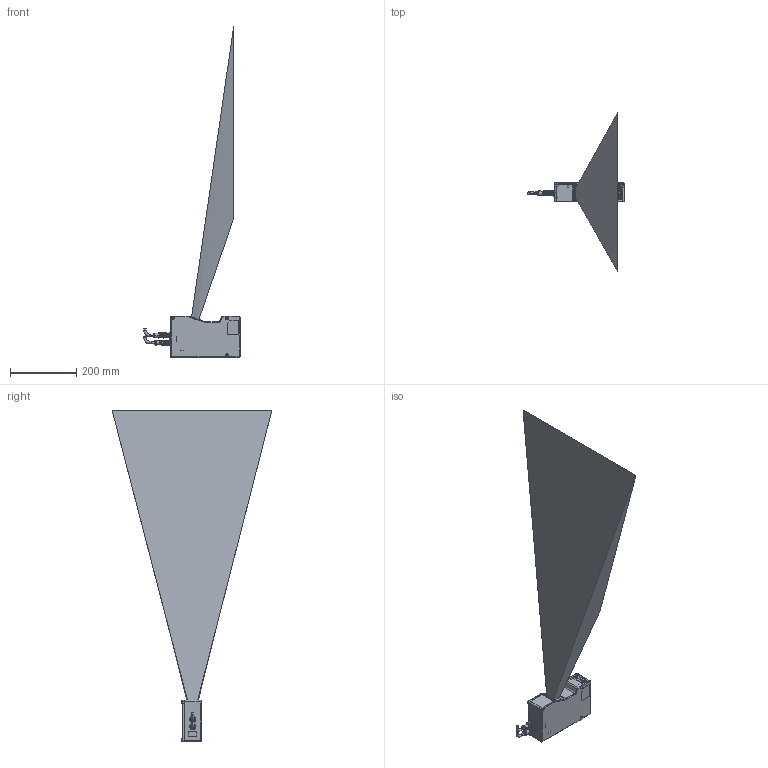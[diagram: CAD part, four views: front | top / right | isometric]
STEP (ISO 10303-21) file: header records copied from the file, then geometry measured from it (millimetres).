
FILE_DESCRIPTION((''),'2;1');
FILE_NAME('PRT0016','2026-05-20T18:56:39',('wangjiayi28'),(''),'CREO PARAMETRIC BY PTC INC, 2020044','CREO PARAMETRIC BY PTC INC, 2020044','');
FILE_SCHEMA(('AUTOMOTIVE_DESIGN { 1 0 10303 214 1 1 1 1 }'));
Products named in the file (1): PRT0016
Bounding box: 291.75 x 482 x 1000.5 mm (x, y, z)
Surface area: 641662.1 mm2
Topology: 2 solids, 45 shells, 1992 faces, 5804 edges, 3781 vertices
Faces by surface type: plane 934, cylinder 588, cone 248, torus 128, bspline 91, extrusion 3
Entity records: 115338 total; most frequent: CARTESIAN_POINT 64603, ORIENTED_EDGE 10394, DIRECTION 10229, EDGE_CURVE 5771, VERTEX_POINT 3781, AXIS2_PLACEMENT_3D 3768, VECTOR 2693, LINE 2690
